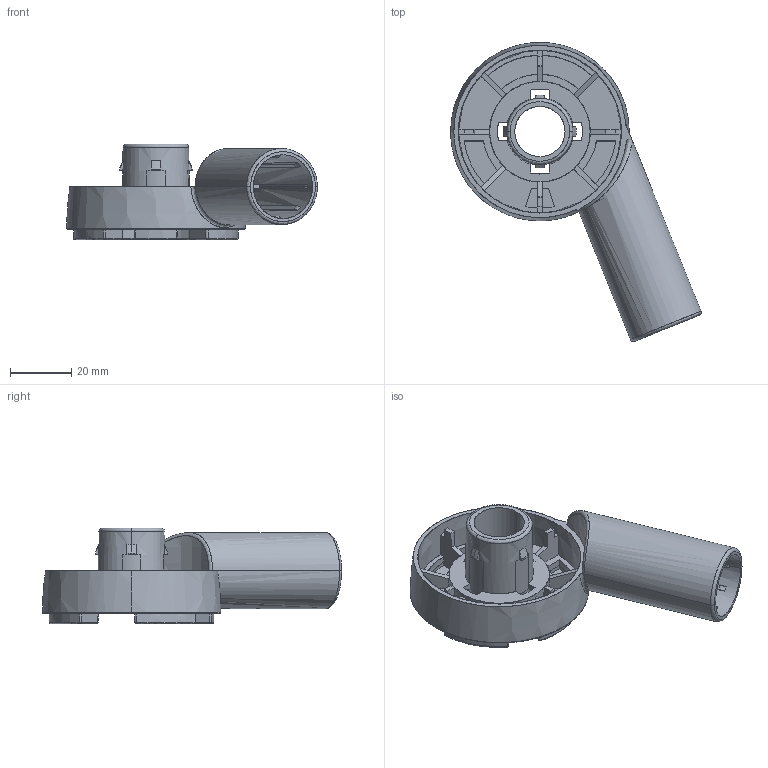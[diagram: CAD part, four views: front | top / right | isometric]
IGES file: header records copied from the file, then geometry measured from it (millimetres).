
Start section: SolidWorks IGES file using analytic representation for surfaces
Global section: file name: R:\DESIGN STORE\PRODUCTS\INDOOR AIRING\C0249 Bed Bath & Beyond X-Wing\stage 1\solidworks\C2\C0249 Iges 091013\C0249_102_C2_leg pivot outer_A.IGS; native system: SolidWorks 2013; preprocessor: SolidWorks 2013; author: howardm; date: 131009.161413; units: millimetre
Bounding box: 81.76 x 97.56 x 31.25 mm (x, y, z)
Surface area: 24225.1 mm2 (no closed solid volume)
Topology: 0 solids, 0 shells, 333 faces, 3088 edges, 3088 vertices
Faces by surface type: bspline 241, revolution 92
